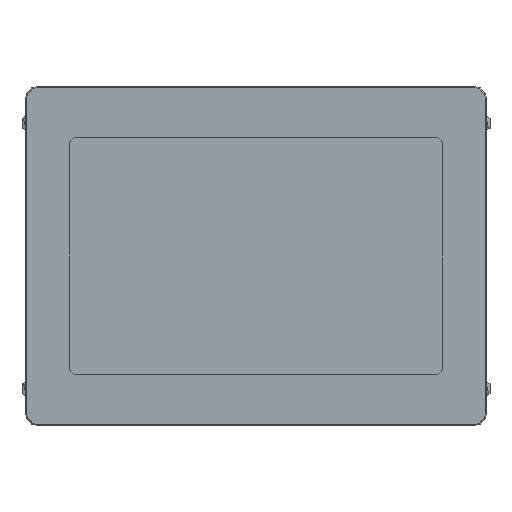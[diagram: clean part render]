
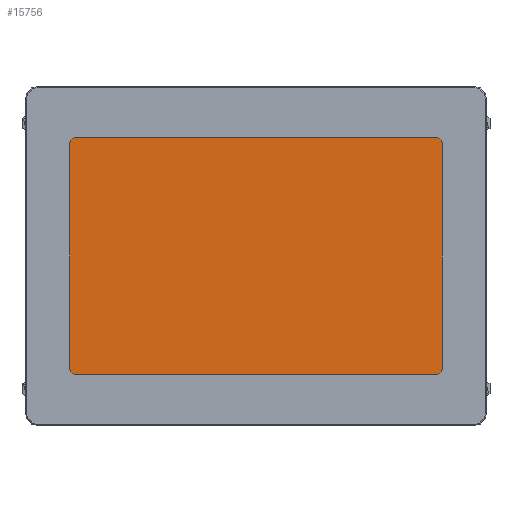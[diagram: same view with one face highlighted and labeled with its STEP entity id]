
A CAD part, front view. The second image highlights one B-rep face of the part: STEP entity #15756.
In plain terms, the highlighted planar face has unit normal (0, -1, 0).
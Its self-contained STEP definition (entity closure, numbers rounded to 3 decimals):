
#2547=LINE($,#31208,#4361);
#2548=LINE($,#31212,#4362);
#2549=LINE($,#31216,#4363);
#2550=LINE($,#31219,#4364);
#4361=VECTOR($,#20771,103.9);
#4362=VECTOR($,#20774,165.9);
#4363=VECTOR($,#20777,103.9);
#4364=VECTOR($,#20780,165.9);
#5104=FACE_OUTER_BOUND($,#5789,.T.);
#5789=EDGE_LOOP($,(#14527,#14528,#14529,#14530,#14531,#14532,#14533,#14534));
#6443=CIRCLE($,#16971,2.5);
#6444=CIRCLE($,#16972,2.5);
#6445=CIRCLE($,#16973,2.5);
#6446=CIRCLE($,#16974,2.5);
#8537=VERTEX_POINT($,#31204);
#8538=VERTEX_POINT($,#31205);
#8539=VERTEX_POINT($,#31207);
#8540=VERTEX_POINT($,#31209);
#8541=VERTEX_POINT($,#31211);
#8542=VERTEX_POINT($,#31213);
#8543=VERTEX_POINT($,#31215);
#8544=VERTEX_POINT($,#31217);
#11221=EDGE_CURVE($,#8537,#8538,#6443,.T.);
#11222=EDGE_CURVE($,#8538,#8539,#2547,.T.);
#11223=EDGE_CURVE($,#8539,#8540,#6444,.T.);
#11224=EDGE_CURVE($,#8540,#8541,#2548,.T.);
#11225=EDGE_CURVE($,#8541,#8542,#6445,.T.);
#11226=EDGE_CURVE($,#8542,#8543,#2549,.T.);
#11227=EDGE_CURVE($,#8543,#8544,#6446,.T.);
#11228=EDGE_CURVE($,#8544,#8537,#2550,.T.);
#14527=ORIENTED_EDGE($,*,*,#11221,.T.);
#14528=ORIENTED_EDGE($,*,*,#11222,.T.);
#14529=ORIENTED_EDGE($,*,*,#11223,.T.);
#14530=ORIENTED_EDGE($,*,*,#11224,.T.);
#14531=ORIENTED_EDGE($,*,*,#11225,.T.);
#14532=ORIENTED_EDGE($,*,*,#11226,.T.);
#14533=ORIENTED_EDGE($,*,*,#11227,.T.);
#14534=ORIENTED_EDGE($,*,*,#11228,.T.);
#15259=PLANE($,#16970);
#15756=ADVANCED_FACE($,(#5104),#15259,.T.);
#16970=AXIS2_PLACEMENT_3D($,#31203,#20767,#20768);
#16971=AXIS2_PLACEMENT_3D($,#31206,#20769,#20770);
#16972=AXIS2_PLACEMENT_3D($,#31210,#20772,#20773);
#16973=AXIS2_PLACEMENT_3D($,#31214,#20775,#20776);
#16974=AXIS2_PLACEMENT_3D($,#31218,#20778,#20779);
#20767=DIRECTION('center_axis',(0.,-1.,0.));
#20768=DIRECTION('ref_axis',(1.,0.,0.));
#20769=DIRECTION('center_axis',(0.,-1.,0.));
#20770=DIRECTION('ref_axis',(0.,0.,1.));
#20771=DIRECTION($,(0.,0.,-1.));
#20772=DIRECTION('center_axis',(0.,-1.,0.));
#20773=DIRECTION('ref_axis',(-1.,0.,0.));
#20774=DIRECTION($,(1.,0.,0.));
#20775=DIRECTION('center_axis',(0.,-1.,0.));
#20776=DIRECTION('ref_axis',(0.,0.,-1.));
#20777=DIRECTION($,(0.,0.,1.));
#20778=DIRECTION('center_axis',(0.,-1.,0.));
#20779=DIRECTION('ref_axis',(1.,0.,0.));
#20780=DIRECTION($,(-1.,0.,0.));
#31203=CARTESIAN_POINT('Origin',(0.,-5.9,0.));
#31204=CARTESIAN_POINT('',(-82.95,-5.9,54.45));
#31205=CARTESIAN_POINT('',(-85.45,-5.9,51.95));
#31206=CARTESIAN_POINT('Origin',(-82.95,-5.9,51.95));
#31207=CARTESIAN_POINT('',(-85.45,-5.9,-51.95));
#31208=CARTESIAN_POINT($,(-85.45,-5.9,51.95));
#31209=CARTESIAN_POINT('',(-82.95,-5.9,-54.45));
#31210=CARTESIAN_POINT('Origin',(-82.95,-5.9,-51.95));
#31211=CARTESIAN_POINT('',(82.95,-5.9,-54.45));
#31212=CARTESIAN_POINT($,(-82.95,-5.9,-54.45));
#31213=CARTESIAN_POINT('',(85.45,-5.9,-51.95));
#31214=CARTESIAN_POINT('Origin',(82.95,-5.9,-51.95));
#31215=CARTESIAN_POINT('',(85.45,-5.9,51.95));
#31216=CARTESIAN_POINT($,(85.45,-5.9,-51.95));
#31217=CARTESIAN_POINT('',(82.95,-5.9,54.45));
#31218=CARTESIAN_POINT('Origin',(82.95,-5.9,51.95));
#31219=CARTESIAN_POINT($,(82.95,-5.9,54.45));
